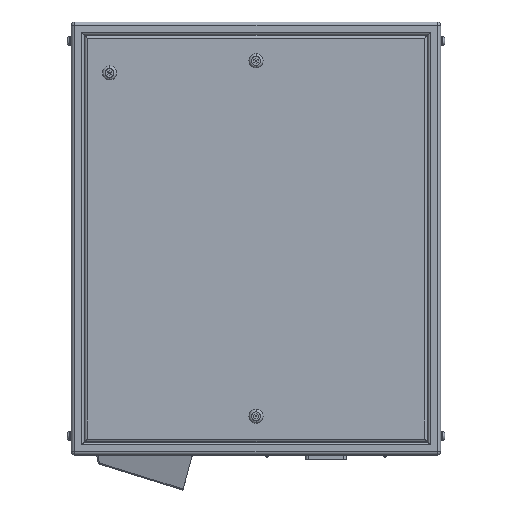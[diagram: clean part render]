
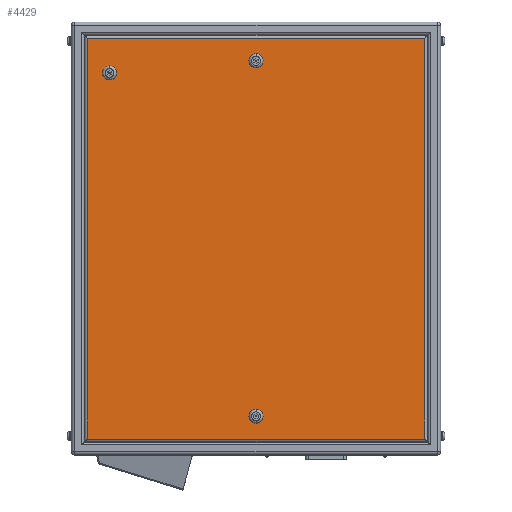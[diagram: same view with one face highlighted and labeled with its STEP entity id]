
A CAD part, left-side view. The second image highlights one B-rep face of the part: STEP entity #4429.
In plain terms, the highlighted planar face has unit normal (-1, 0, 0).
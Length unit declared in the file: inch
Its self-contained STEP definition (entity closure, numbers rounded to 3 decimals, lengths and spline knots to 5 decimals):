
#51 = ORIENTED_EDGE ( 'NONE', *, *, #11432, .T. ) ;
#1286 = VERTEX_POINT ( 'NONE', #6454 ) ;
#1410 = ORIENTED_EDGE ( 'NONE', *, *, #9602, .T. ) ;
#1523 = VECTOR ( 'NONE', #4371, 39.37008 ) ;
#1994 = LINE ( 'NONE', #5572, #9737 ) ;
#2016 = EDGE_CURVE ( 'NONE', #18063, #2948, #13821, .T. ) ;
#2053 = AXIS2_PLACEMENT_3D ( 'NONE', #16481, #17902, #7227 ) ;
#2179 = EDGE_CURVE ( 'NONE', #11759, #4138, #5592, .T. ) ;
#2280 = PLANE ( 'NONE',  #18273 ) ;
#2499 = AXIS2_PLACEMENT_3D ( 'NONE', #7812, #18640, #7878 ) ;
#2612 = DIRECTION ( 'NONE',  ( 0., 0., -1. ) ) ;
#2668 = ORIENTED_EDGE ( 'NONE', *, *, #4885, .T. ) ;
#2948 = VERTEX_POINT ( 'NONE', #13613 ) ;
#3313 = AXIS2_PLACEMENT_3D ( 'NONE', #6400, #12447, #4906 ) ;
#3331 = CIRCLE ( 'NONE', #14592, 0.55 ) ;
#3813 = ORIENTED_EDGE ( 'NONE', *, *, #2179, .T. ) ;
#4109 = CARTESIAN_POINT ( 'NONE',  ( -8.5, 13.24, -17. ) ) ;
#4138 = VERTEX_POINT ( 'NONE', #6118 ) ;
#4371 = DIRECTION ( 'NONE',  ( 0., 0., -1. ) ) ;
#4429 = ADVANCED_FACE ( 'NONE', ( #18256, #13161, #15586, #11460 ), #2280, .F. ) ;
#4549 = DIRECTION ( 'NONE',  ( 1., 0., 0. ) ) ;
#4737 = AXIS2_PLACEMENT_3D ( 'NONE', #12870, #7997, #19097 ) ;
#4885 = EDGE_CURVE ( 'NONE', #2948, #11759, #8515, .T. ) ;
#4906 = DIRECTION ( 'NONE',  ( 0., 0., -1. ) ) ;
#5006 = CARTESIAN_POINT ( 'NONE',  ( -8.5, 11.5, 13.55 ) ) ;
#5572 = CARTESIAN_POINT ( 'NONE',  ( -8.5, 14.5, 15.74 ) ) ;
#5592 = LINE ( 'NONE', #17474, #10665 ) ;
#5769 = DIRECTION ( 'NONE',  ( 0., 0., -1. ) ) ;
#6118 = CARTESIAN_POINT ( 'NONE',  ( -8.5, -13.24, 15.74 ) ) ;
#6400 = CARTESIAN_POINT ( 'NONE',  ( -8.5, 11.5, 13. ) ) ;
#6454 = CARTESIAN_POINT ( 'NONE',  ( -8.5, 0., 13.4 ) ) ;
#6696 = EDGE_CURVE ( 'NONE', #17942, #18152, #8877, .T. ) ;
#6797 = CARTESIAN_POINT ( 'NONE',  ( -8.5, 14.5, -17. ) ) ;
#7227 = DIRECTION ( 'NONE',  ( 0., 0., -1. ) ) ;
#7330 = VECTOR ( 'NONE', #9619, 39.37008 ) ;
#7659 = ORIENTED_EDGE ( 'NONE', *, *, #6696, .T. ) ;
#7812 = CARTESIAN_POINT ( 'NONE',  ( -8.5, 0., -13.95 ) ) ;
#7878 = DIRECTION ( 'NONE',  ( 0., 0., 1. ) ) ;
#7997 = DIRECTION ( 'NONE',  ( 1., 0., 0. ) ) ;
#8515 = LINE ( 'NONE', #15982, #7330 ) ;
#8877 = CIRCLE ( 'NONE', #2499, 0.55 ) ;
#8878 = DIRECTION ( 'NONE',  ( 0., 1., 0. ) ) ;
#8936 = CARTESIAN_POINT ( 'NONE',  ( -8.5, 11.5, 12.45 ) ) ;
#9137 = CARTESIAN_POINT ( 'NONE',  ( -8.5, 0., -14.5 ) ) ;
#9597 = ORIENTED_EDGE ( 'NONE', *, *, #9762, .T. ) ;
#9602 = EDGE_CURVE ( 'NONE', #13060, #1286, #3331, .T. ) ;
#9619 = DIRECTION ( 'NONE',  ( 0., -1., 0. ) ) ;
#9648 = CARTESIAN_POINT ( 'NONE',  ( -8.5, 0., 14.5 ) ) ;
#9737 = VECTOR ( 'NONE', #8878, 39.37008 ) ;
#9762 = EDGE_CURVE ( 'NONE', #1286, #13060, #11524, .T. ) ;
#9781 = DIRECTION ( 'NONE',  ( 1., 0., 0. ) ) ;
#9963 = VERTEX_POINT ( 'NONE', #5006 ) ;
#10665 = VECTOR ( 'NONE', #14635, 39.37008 ) ;
#10744 = CARTESIAN_POINT ( 'NONE',  ( -8.5, 0., -13.4 ) ) ;
#11432 = EDGE_CURVE ( 'NONE', #18152, #17942, #15287, .T. ) ;
#11460 = FACE_OUTER_BOUND ( 'NONE', #15570, .T. ) ;
#11524 = CIRCLE ( 'NONE', #16801, 0.55 ) ;
#11634 = DIRECTION ( 'NONE',  ( 1., 0., 0. ) ) ;
#11679 = EDGE_CURVE ( 'NONE', #4138, #18063, #1994, .T. ) ;
#11759 = VERTEX_POINT ( 'NONE', #13862 ) ;
#12106 = CARTESIAN_POINT ( 'NONE',  ( -8.5, 0., 13.95 ) ) ;
#12447 = DIRECTION ( 'NONE',  ( 1., 0., 0. ) ) ;
#12627 = ORIENTED_EDGE ( 'NONE', *, *, #11679, .T. ) ;
#12681 = EDGE_CURVE ( 'NONE', #15378, #9963, #15947, .T. ) ;
#12870 = CARTESIAN_POINT ( 'NONE',  ( -8.5, 0., -13.95 ) ) ;
#13060 = VERTEX_POINT ( 'NONE', #9648 ) ;
#13068 = DIRECTION ( 'NONE',  ( 0., 0., -1. ) ) ;
#13161 = FACE_BOUND ( 'NONE', #19923, .T. ) ;
#13613 = CARTESIAN_POINT ( 'NONE',  ( -8.5, 13.24, -15.74 ) ) ;
#13790 = ORIENTED_EDGE ( 'NONE', *, *, #2016, .T. ) ;
#13821 = LINE ( 'NONE', #4109, #1523 ) ;
#13862 = CARTESIAN_POINT ( 'NONE',  ( -8.5, -13.24, -15.74 ) ) ;
#14122 = CARTESIAN_POINT ( 'NONE',  ( -8.5, 13.24, 15.74 ) ) ;
#14592 = AXIS2_PLACEMENT_3D ( 'NONE', #14830, #11634, #2612 ) ;
#14635 = DIRECTION ( 'NONE',  ( 0., 0., 1. ) ) ;
#14830 = CARTESIAN_POINT ( 'NONE',  ( -8.5, 0., 13.95 ) ) ;
#15287 = CIRCLE ( 'NONE', #4737, 0.55 ) ;
#15378 = VERTEX_POINT ( 'NONE', #8936 ) ;
#15570 = EDGE_LOOP ( 'NONE', ( #2668, #3813, #12627, #13790 ) ) ;
#15586 = FACE_BOUND ( 'NONE', #16190, .T. ) ;
#15874 = ORIENTED_EDGE ( 'NONE', *, *, #17108, .T. ) ;
#15947 = CIRCLE ( 'NONE', #2053, 0.55 ) ;
#15982 = CARTESIAN_POINT ( 'NONE',  ( -8.5, 14.5, -15.74 ) ) ;
#16190 = EDGE_LOOP ( 'NONE', ( #19893, #15874 ) ) ;
#16481 = CARTESIAN_POINT ( 'NONE',  ( -8.5, 11.5, 13. ) ) ;
#16801 = AXIS2_PLACEMENT_3D ( 'NONE', #12106, #4549, #5769 ) ;
#17108 = EDGE_CURVE ( 'NONE', #9963, #15378, #19019, .T. ) ;
#17474 = CARTESIAN_POINT ( 'NONE',  ( -8.5, -13.24, -17. ) ) ;
#17902 = DIRECTION ( 'NONE',  ( 1., 0., 0. ) ) ;
#17942 = VERTEX_POINT ( 'NONE', #9137 ) ;
#18063 = VERTEX_POINT ( 'NONE', #14122 ) ;
#18152 = VERTEX_POINT ( 'NONE', #10744 ) ;
#18256 = FACE_BOUND ( 'NONE', #18991, .T. ) ;
#18273 = AXIS2_PLACEMENT_3D ( 'NONE', #6797, #9781, #13068 ) ;
#18640 = DIRECTION ( 'NONE',  ( 1., 0., 0. ) ) ;
#18991 = EDGE_LOOP ( 'NONE', ( #7659, #51 ) ) ;
#19019 = CIRCLE ( 'NONE', #3313, 0.55 ) ;
#19097 = DIRECTION ( 'NONE',  ( 0., 0., 1. ) ) ;
#19893 = ORIENTED_EDGE ( 'NONE', *, *, #12681, .T. ) ;
#19923 = EDGE_LOOP ( 'NONE', ( #9597, #1410 ) ) ;
